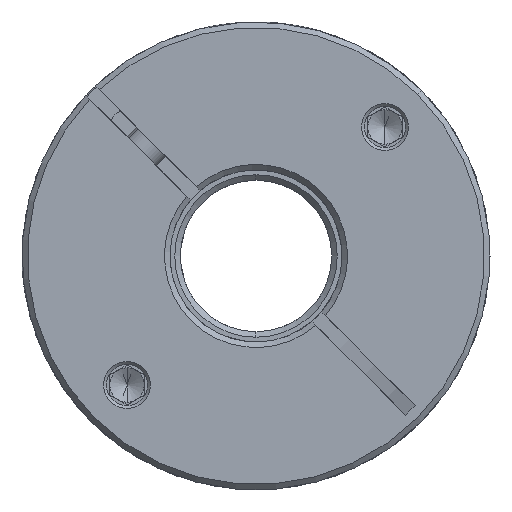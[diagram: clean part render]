
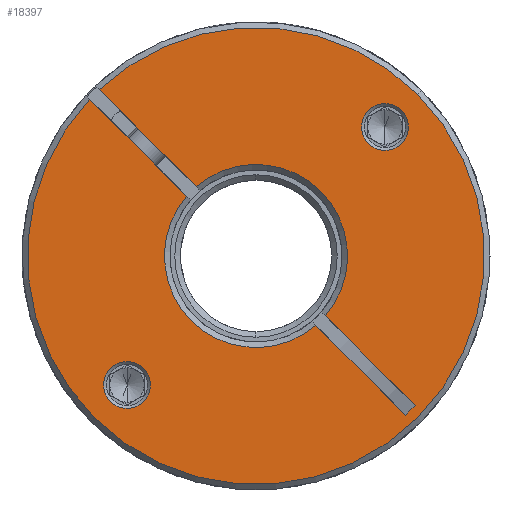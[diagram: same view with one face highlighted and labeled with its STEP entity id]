
A CAD part, front view. The second image highlights one B-rep face of the part: STEP entity #18397.
In plain terms, the highlighted planar face has unit normal (0, -1, 0).
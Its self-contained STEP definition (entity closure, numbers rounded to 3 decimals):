
#20 = CIRCLE ( 'NONE', #5914, 33.2 ) ;
#24 = CARTESIAN_POINT ( 'NONE',  ( 6.669, -67.045, 77.405 ) ) ;
#290 = CARTESIAN_POINT ( 'NONE',  ( -2.028, -67.045, 68.707 ) ) ;
#366 = DIRECTION ( 'NONE',  ( 0., 1., 0. ) ) ;
#428 = VERTEX_POINT ( 'NONE', #2229 ) ;
#465 = AXIS2_PLACEMENT_3D ( 'NONE', #8426, #16611, #6728 ) ;
#538 = LINE ( 'NONE', #4571, #3161 ) ;
#545 = CARTESIAN_POINT ( 'NONE',  ( 7.35, -67.045, 59.329 ) ) ;
#1041 = DIRECTION ( 'NONE',  ( 0.707, 0., 0.707 ) ) ;
#1071 = ORIENTED_EDGE ( 'NONE', *, *, #15131, .F. ) ;
#1725 = EDGE_CURVE ( 'NONE', #428, #11703, #5384, .T. ) ;
#1902 = DIRECTION ( 'NONE',  ( 0.707, 0., -0.707 ) ) ;
#2207 = VERTEX_POINT ( 'NONE', #19198 ) ;
#2229 = CARTESIAN_POINT ( 'NONE',  ( -23.878, -67.045, 46.858 ) ) ;
#2696 = CARTESIAN_POINT ( 'NONE',  ( 5.936, -67.045, 57.915 ) ) ;
#2909 = CARTESIAN_POINT ( 'NONE',  ( 18.988, -67.045, 44.862 ) ) ;
#3033 = VECTOR ( 'NONE', #7572, 1000. ) ;
#3109 = VERTEX_POINT ( 'NONE', #545 ) ;
#3161 = VECTOR ( 'NONE', #7525, 1000. ) ;
#3175 = CARTESIAN_POINT ( 'NONE',  ( -2.735, -67.045, 68. ) ) ;
#3380 = AXIS2_PLACEMENT_3D ( 'NONE', #18923, #7408, #10725 ) ;
#3468 = EDGE_CURVE ( 'NONE', #19335, #19545, #10413, .T. ) ;
#3520 = LINE ( 'NONE', #4996, #20536 ) ;
#3940 = AXIS2_PLACEMENT_3D ( 'NONE', #3175, #16503, #14828 ) ;
#4054 = ORIENTED_EDGE ( 'NONE', *, *, #8582, .T. ) ;
#4099 = VECTOR ( 'NONE', #1902, 1000. ) ;
#4346 = AXIS2_PLACEMENT_3D ( 'NONE', #19182, #19116, #1041 ) ;
#4465 = CARTESIAN_POINT ( 'NONE',  ( -26.211, -67.045, 44.524 ) ) ;
#4528 = DIRECTION ( 'NONE',  ( 0., -1., 0. ) ) ;
#4571 = CARTESIAN_POINT ( 'NONE',  ( -3.442, -67.045, 67.293 ) ) ;
#4996 = CARTESIAN_POINT ( 'NONE',  ( -3.442, -67.045, 67.293 ) ) ;
#5007 = CARTESIAN_POINT ( 'NONE',  ( -2.028, -67.045, 68.707 ) ) ;
#5130 = DIRECTION ( 'NONE',  ( 0.707, 0., 0.707 ) ) ;
#5178 = CIRCLE ( 'NONE', #12225, 13.3 ) ;
#5360 = FACE_BOUND ( 'NONE', #13315, .T. ) ;
#5380 = CARTESIAN_POINT ( 'NONE',  ( -19.069, -67.045, 51.666 ) ) ;
#5384 = CIRCLE ( 'NONE', #3380, 3.4 ) ;
#5626 = VERTEX_POINT ( 'NONE', #2696 ) ;
#5655 = EDGE_LOOP ( 'NONE', ( #11679, #7629 ) ) ;
#5706 = CARTESIAN_POINT ( 'NONE',  ( 16.003, -67.045, 86.738 ) ) ;
#5736 = VERTEX_POINT ( 'NONE', #24 ) ;
#5914 = AXIS2_PLACEMENT_3D ( 'NONE', #18152, #8194, #19843 ) ;
#5976 = CIRCLE ( 'NONE', #17326, 3.4 ) ;
#6072 = CARTESIAN_POINT ( 'NONE',  ( 18.988, -67.045, 44.862 ) ) ;
#6250 = ORIENTED_EDGE ( 'NONE', *, *, #6276, .T. ) ;
#6276 = EDGE_CURVE ( 'NONE', #7137, #18955, #5976, .T. ) ;
#6459 = CIRCLE ( 'NONE', #20577, 3.4 ) ;
#6487 = AXIS2_PLACEMENT_3D ( 'NONE', #14330, #4528, #15928 ) ;
#6502 = PLANE ( 'NONE',  #19887 ) ;
#6592 = VERTEX_POINT ( 'NONE', #12623 ) ;
#6647 = DIRECTION ( 'NONE',  ( 0., -1., 0. ) ) ;
#6728 = DIRECTION ( 'NONE',  ( 0.707, 0., 0.707 ) ) ;
#6944 = EDGE_CURVE ( 'NONE', #18955, #7137, #6459, .T. ) ;
#7137 = VERTEX_POINT ( 'NONE', #11081 ) ;
#7333 = ORIENTED_EDGE ( 'NONE', *, *, #17984, .T. ) ;
#7408 = DIRECTION ( 'NONE',  ( 0., 1., 0. ) ) ;
#7441 = ORIENTED_EDGE ( 'NONE', *, *, #6944, .T. ) ;
#7525 = DIRECTION ( 'NONE',  ( 0.707, 0., -0.707 ) ) ;
#7572 = DIRECTION ( 'NONE',  ( -0.707, 0., -0.707 ) ) ;
#7629 = ORIENTED_EDGE ( 'NONE', *, *, #1725, .T. ) ;
#8071 = CARTESIAN_POINT ( 'NONE',  ( -2.735, -67.045, 68. ) ) ;
#8098 = CARTESIAN_POINT ( 'NONE',  ( 13.599, -67.045, 84.334 ) ) ;
#8159 = ORIENTED_EDGE ( 'NONE', *, *, #3468, .T. ) ;
#8194 = DIRECTION ( 'NONE',  ( 0., -1., 0. ) ) ;
#8257 = CARTESIAN_POINT ( 'NONE',  ( -2.735, -67.045, 68. ) ) ;
#8426 = CARTESIAN_POINT ( 'NONE',  ( -21.473, -67.045, 49.262 ) ) ;
#8497 = CARTESIAN_POINT ( 'NONE',  ( 16.003, -67.045, 86.738 ) ) ;
#8582 = EDGE_CURVE ( 'NONE', #5626, #16533, #5178, .T. ) ;
#9510 = CARTESIAN_POINT ( 'NONE',  ( 20.402, -67.045, 46.277 ) ) ;
#9559 = EDGE_CURVE ( 'NONE', #2207, #11896, #10218, .T. ) ;
#9647 = EDGE_CURVE ( 'NONE', #20333, #5736, #13574, .T. ) ;
#9912 = ORIENTED_EDGE ( 'NONE', *, *, #19738, .T. ) ;
#10218 = CIRCLE ( 'NONE', #6487, 33.2 ) ;
#10413 = LINE ( 'NONE', #2909, #3033 ) ;
#10725 = DIRECTION ( 'NONE',  ( 0.707, 0., 0.707 ) ) ;
#10862 = ORIENTED_EDGE ( 'NONE', *, *, #9559, .T. ) ;
#11038 = CARTESIAN_POINT ( 'NONE',  ( -11.406, -67.045, 78.085 ) ) ;
#11081 = CARTESIAN_POINT ( 'NONE',  ( 18.407, -67.045, 89.142 ) ) ;
#11104 = AXIS2_PLACEMENT_3D ( 'NONE', #16106, #17804, #14284 ) ;
#11233 = LINE ( 'NONE', #290, #4099 ) ;
#11679 = ORIENTED_EDGE ( 'NONE', *, *, #14065, .T. ) ;
#11703 = VERTEX_POINT ( 'NONE', #5380 ) ;
#11896 = VERTEX_POINT ( 'NONE', #4465 ) ;
#12107 = CIRCLE ( 'NONE', #465, 3.4 ) ;
#12179 = VERTEX_POINT ( 'NONE', #16565 ) ;
#12225 = AXIS2_PLACEMENT_3D ( 'NONE', #8071, #16413, #14738 ) ;
#12348 = VECTOR ( 'NONE', #18400, 1000. ) ;
#12375 = DIRECTION ( 'NONE',  ( 0.707, 0., 0.707 ) ) ;
#12623 = CARTESIAN_POINT ( 'NONE',  ( -25.493, -67.045, 92.172 ) ) ;
#12870 = ORIENTED_EDGE ( 'NONE', *, *, #20089, .F. ) ;
#12968 = EDGE_CURVE ( 'NONE', #5736, #3109, #20264, .T. ) ;
#13315 = EDGE_LOOP ( 'NONE', ( #6250, #7441 ) ) ;
#13574 = CIRCLE ( 'NONE', #3940, 13.3 ) ;
#14065 = EDGE_CURVE ( 'NONE', #11703, #428, #12107, .T. ) ;
#14284 = DIRECTION ( 'NONE',  ( 0.707, 0., 0.707 ) ) ;
#14330 = CARTESIAN_POINT ( 'NONE',  ( -2.735, -67.045, 68. ) ) ;
#14738 = DIRECTION ( 'NONE',  ( 0.707, 0., 0.707 ) ) ;
#14828 = DIRECTION ( 'NONE',  ( 0.707, 0., 0.707 ) ) ;
#14867 = EDGE_CURVE ( 'NONE', #6592, #20333, #16760, .T. ) ;
#15131 = EDGE_CURVE ( 'NONE', #5626, #19545, #538, .T. ) ;
#15133 = FACE_BOUND ( 'NONE', #5655, .T. ) ;
#15857 = ORIENTED_EDGE ( 'NONE', *, *, #12968, .T. ) ;
#15892 = FACE_OUTER_BOUND ( 'NONE', #18752, .T. ) ;
#15928 = DIRECTION ( 'NONE',  ( 0.707, 0., 0.707 ) ) ;
#16106 = CARTESIAN_POINT ( 'NONE',  ( -2.735, -67.045, 68. ) ) ;
#16413 = DIRECTION ( 'NONE',  ( 0., 1., 0. ) ) ;
#16503 = DIRECTION ( 'NONE',  ( 0., 1., 0. ) ) ;
#16533 = VERTEX_POINT ( 'NONE', #20459 ) ;
#16565 = CARTESIAN_POINT ( 'NONE',  ( 20.741, -67.045, 91.476 ) ) ;
#16611 = DIRECTION ( 'NONE',  ( 0., 1., 0. ) ) ;
#16760 = LINE ( 'NONE', #5007, #12348 ) ;
#17326 = AXIS2_PLACEMENT_3D ( 'NONE', #8497, #366, #5130 ) ;
#17335 = ORIENTED_EDGE ( 'NONE', *, *, #14867, .T. ) ;
#17804 = DIRECTION ( 'NONE',  ( 0., 1., 0. ) ) ;
#17984 = EDGE_CURVE ( 'NONE', #12179, #6592, #20, .T. ) ;
#18152 = CARTESIAN_POINT ( 'NONE',  ( -2.735, -67.045, 68. ) ) ;
#18373 = ORIENTED_EDGE ( 'NONE', *, *, #9647, .T. ) ;
#18397 = ADVANCED_FACE ( 'NONE', ( #5360, #15133, #15892 ), #6502, .T. ) ;
#18400 = DIRECTION ( 'NONE',  ( 0.707, 0., -0.707 ) ) ;
#18752 = EDGE_LOOP ( 'NONE', ( #12870, #10862, #9912, #7333, #17335, #18373, #15857, #20917, #8159, #1071, #4054 ) ) ;
#18892 = EDGE_CURVE ( 'NONE', #3109, #19335, #11233, .T. ) ;
#18923 = CARTESIAN_POINT ( 'NONE',  ( -21.473, -67.045, 49.262 ) ) ;
#18955 = VERTEX_POINT ( 'NONE', #8098 ) ;
#19116 = DIRECTION ( 'NONE',  ( 0., -1., 0. ) ) ;
#19182 = CARTESIAN_POINT ( 'NONE',  ( -2.735, -67.045, 68. ) ) ;
#19198 = CARTESIAN_POINT ( 'NONE',  ( -26.908, -67.045, 90.758 ) ) ;
#19335 = VERTEX_POINT ( 'NONE', #9510 ) ;
#19545 = VERTEX_POINT ( 'NONE', #6072 ) ;
#19738 = EDGE_CURVE ( 'NONE', #11896, #12179, #21332, .T. ) ;
#19843 = DIRECTION ( 'NONE',  ( 0.707, 0., 0.707 ) ) ;
#19860 = DIRECTION ( 'NONE',  ( 0.707, 0., -0.707 ) ) ;
#19887 = AXIS2_PLACEMENT_3D ( 'NONE', #8257, #6647, #19907 ) ;
#19907 = DIRECTION ( 'NONE',  ( 0.707, 0., 0.707 ) ) ;
#20089 = EDGE_CURVE ( 'NONE', #2207, #16533, #3520, .T. ) ;
#20264 = CIRCLE ( 'NONE', #11104, 13.3 ) ;
#20333 = VERTEX_POINT ( 'NONE', #11038 ) ;
#20459 = CARTESIAN_POINT ( 'NONE',  ( -12.82, -67.045, 76.671 ) ) ;
#20536 = VECTOR ( 'NONE', #19860, 1000. ) ;
#20577 = AXIS2_PLACEMENT_3D ( 'NONE', #5706, #20812, #12375 ) ;
#20812 = DIRECTION ( 'NONE',  ( 0., 1., 0. ) ) ;
#20917 = ORIENTED_EDGE ( 'NONE', *, *, #18892, .T. ) ;
#21332 = CIRCLE ( 'NONE', #4346, 33.2 ) ;
